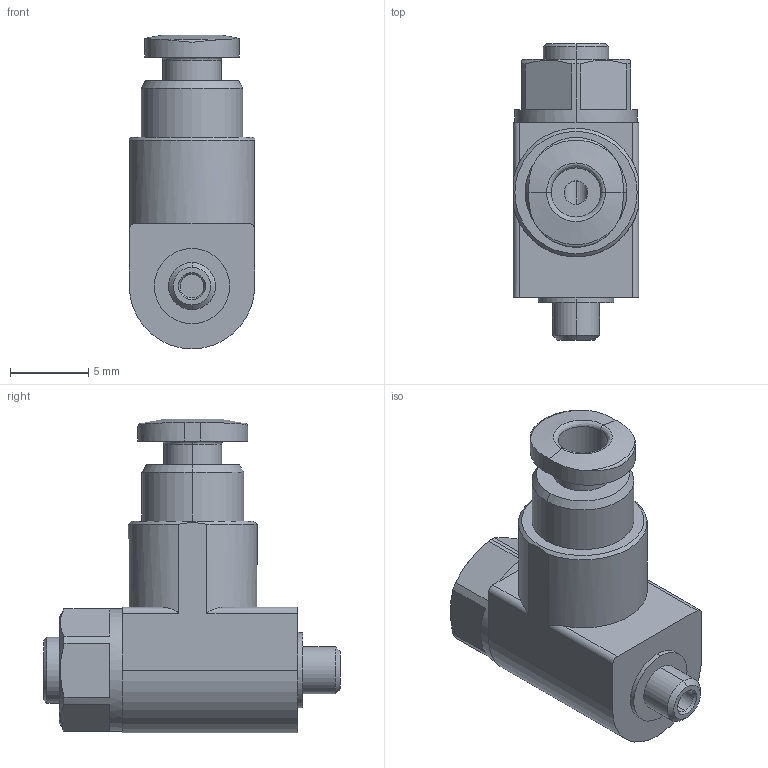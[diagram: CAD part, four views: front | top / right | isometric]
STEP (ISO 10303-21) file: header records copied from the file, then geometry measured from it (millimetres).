
FILE_DESCRIPTION (( 'STEP AP203' ), '1' );
FILE_NAME ('14010061 Zuluftdrossel M3 D3.STEP', '2019-02-15T12:27:55', ( '' ), ( '' ), 'SwSTEP 2.0', 'SolidWorks 2015', '' );
FILE_SCHEMA (( 'CONFIG_CONTROL_DESIGN' ));
Length unit declared in the file: millimetre
Products named in the file (1): 14010061 Zuluftdrossel M3 D3
Bounding box: 8 x 18.9 x 20 mm (x, y, z)
Volume: 1202.3 mm3; surface area: 1053.4 mm2
Topology: 1 solids, 1 shells, 87 faces, 215 edges, 138 vertices
Faces by surface type: plane 34, cylinder 29, cone 18, bspline 6
Entity records: 2968 total; most frequent: CARTESIAN_POINT 835, DIRECTION 435, ORIENTED_EDGE 430, EDGE_CURVE 215, AXIS2_PLACEMENT_3D 174, VERTEX_POINT 138, EDGE_LOOP 97, CIRCLE 92
